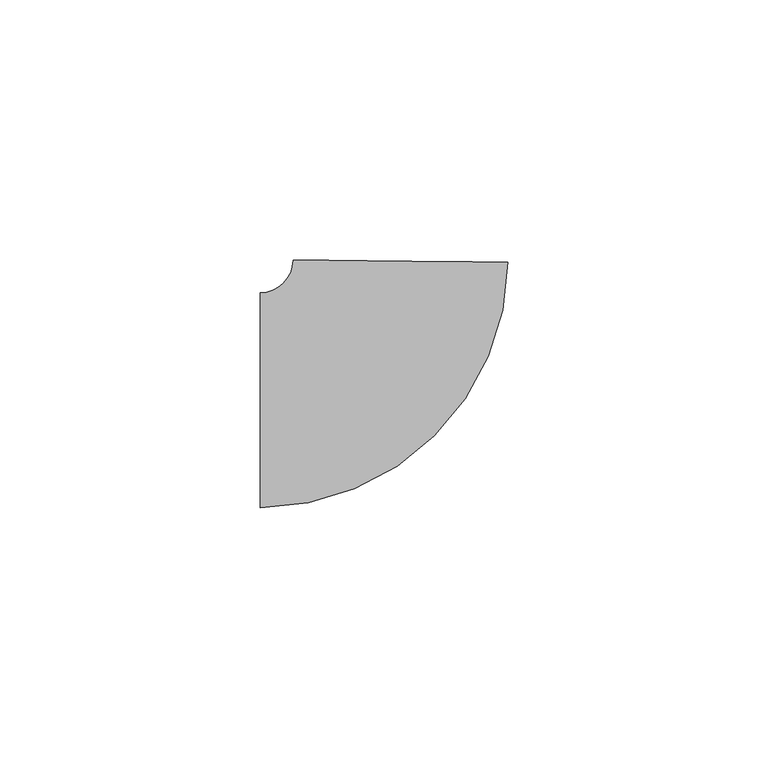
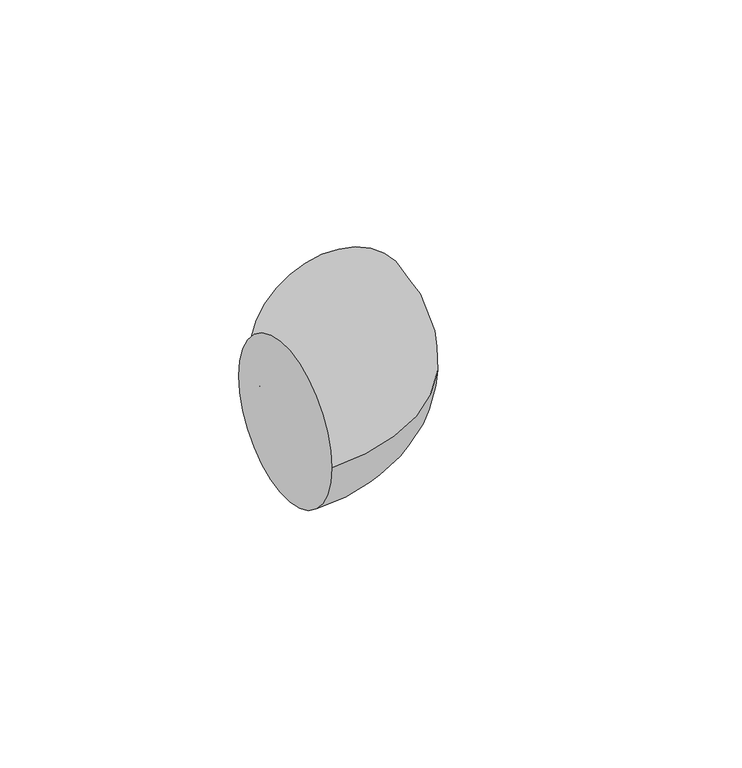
"""IFC4 building model written with IfcOpenShell, lengths in millimetres: pipe fitting geometry, M_Codo - Genérico : Estándar."""

from ifc_helpers import new_model, si_unit, point, frame, origin, place, context, project, spatial, circle_curve, ellipse_curve, trimmed, source, transform, mapped, element, save
from ifc_brep_helpers import plane_surface, revolved_surface, advanced_brep


def pipe_fitting_e6f27fe7(model_context):
    return source(origin(), model_context, "Body", "AdvancedBrep", [
        advanced_brep(
        [(-26.7189743, -20.6375, 0.0), (-26.7189743, 20.6375, 0.0), (20.9036446, 26.5112738, 0.0), (-20.3692918, 26.9240032, 0.0)],
        [
            (0, 1, circle_curve(frame((-26.7189743, 0.0, 0.0), z_axis=(-1.0, 0.0, 0.0), x_axis=(0.0, 1.0, 0.0)), 20.6375)),
            (1, 0, circle_curve(frame((-26.7189743, 0.0, 0.0), z_axis=(-1.0, 0.0, 0.0), x_axis=(0.0, 1.0, 0.0)), 20.6375)),
            (2, 3, circle_curve(frame((0.2671764, 26.7176385, 0.0), z_axis=(0.009999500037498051, 0.9999500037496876, 0.0), x_axis=(-0.9999500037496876, 0.009999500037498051, 0.0)), 20.6375)),
            (3, 2, circle_curve(frame((0.2671764, 26.7176385, 0.0), z_axis=(0.009999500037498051, 0.9999500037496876, 0.0), x_axis=(-0.9999500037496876, 0.009999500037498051, 0.0)), 20.6375)),
            (3, 1, circle_curve(frame((-26.7189743, 26.9875, 0.0), z_axis=(0.0, 0.0, -1.0), x_axis=(0.0, -1.0, 0.0)), 6.35)),
            (0, 2, circle_curve(frame((-26.7189743, 26.9875, 0.0), z_axis=(0.0, 0.0, 1.0), x_axis=(0.0, -1.0, 0.0)), 47.625)),
        ],
        [
            plane_surface(frame((-26.7189743, 0.0, 0.0), z_axis=(-1.0, 0.0, 0.0), x_axis=(0.0, 0.0, 1.0))),
            plane_surface(frame((0.2671764, 26.7176385, 0.0), z_axis=(0.009999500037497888, 0.9999500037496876, 0.0), x_axis=(0.0, 0.0, 1.0))),
            revolved_surface(trimmed(ellipse_curve(frame((-26.7189743, 0.0, 0.0), z_axis=(-1.0, 0.0, 0.0), x_axis=(0.0, 1.0, 0.0)), 20.6375, 20.6375), [point((-26.7189743, -20.6375, 0.0))], [point((-26.7189743, 20.6375, 0.0))], True, "CARTESIAN"), (-26.7189743, 26.9875, 0.0), (0.0, 0.0, 1.0)),
            revolved_surface(trimmed(ellipse_curve(frame((-26.7189743, 0.0, 0.0), z_axis=(-1.0, 0.0, 0.0), x_axis=(0.0, 1.0, 0.0)), 20.6375, 20.6375), [point((-26.7189743, 20.6375, 0.0))], [point((-26.7189743, -20.6375, 0.0))], True, "CARTESIAN"), (-26.7189743, 26.9875, 0.0), (0.0, 0.0, 1.0)),
        ],
        [
            (0, [[1, 2]]),
            (1, [[3, 4]]),
            (2, [[5, -1, 6, -4]]),
            (3, [[-6, -2, -5, -3]]),
        ],
    ),
    ])


if __name__ == "__main__":
    model = new_model("IFC4")
    model_context = context("Model", 3, world=origin())
    ifc_project = project(units=[si_unit("LENGTHUNIT", "METRE", prefix="MILLI")], contexts=[model_context])
    site = spatial("IfcSite", under=ifc_project)
    building = spatial("IfcBuilding", under=site)
    placement = place(None, origin())
    pipe_fitting_shape = pipe_fitting_e6f27fe7(model_context)
    element("IfcPipeFitting", 1, ObjectType="M_Codo - Genérico : Estándar", at=placement, inside=building, context=model_context, shape_type="MappedRepresentation", body=[
        mapped(pipe_fitting_shape, transform((0.0, 0.0, 0.0), x_axis=(1.0, 0.0, 0.0), y_axis=(0.0, 1.0, 0.0), z_axis=(0.0, 0.0, 1.0))),
    ])
    save(model, "model.ifc")
